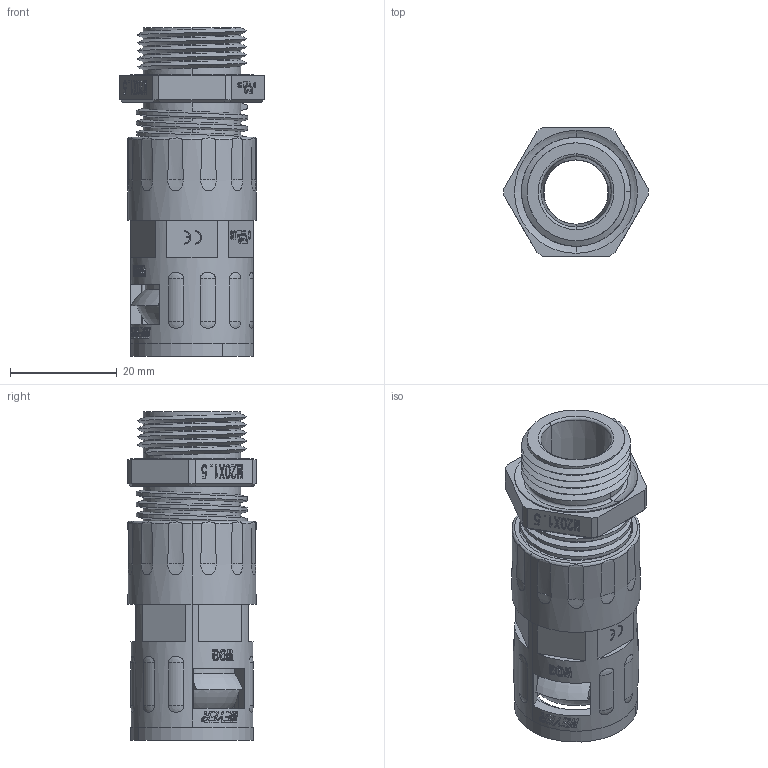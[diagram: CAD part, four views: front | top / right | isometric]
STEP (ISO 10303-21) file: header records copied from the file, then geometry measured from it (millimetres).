
FILE_DESCRIPTION (( 'STEP AP203' ), '1' );
FILE_NAME ('WQGZ-M20-AD15.8.STEP', '2019-09-24T05:37:54', ( '' ), ( '' ), 'SwSTEP 2.0', 'SolidWorks 2016', '' );
FILE_SCHEMA (( 'CONFIG_CONTROL_DESIGN' ));
Length unit declared in the file: millimetre
Products named in the file (8): WQG2-Tr20-AD15.8; CTH-P13.5; HSK-M20-01; WQGZ-M20-AD15.8; GFD-AD15.8; 蚾饜极; NSK-AD15.8
Assembly tree (7 placements, depth 3):
  WQGZ-M20-AD15.8
    WQG2-Tr20-AD15.8
      WQG2-Tr20-AD15.8
      GFD-AD15.8
      NSK-AD15.8
    蚾饜极
      HSK-M20-01
      CTH-P13.5
Bounding box: 27 x 24 x 61.5 mm (x, y, z)
Volume: 13175.7 mm3; surface area: 17028 mm2
Topology: 16 solids, 16 shells, 1023 faces, 2739 edges, 1783 vertices
Faces by surface type: plane 597, cylinder 138, bspline 133, cone 81, torus 46, sphere 28
Entity records: 46174 total; most frequent: CARTESIAN_POINT 21291, ORIENTED_EDGE 5366, DIRECTION 4433, EDGE_CURVE 2683, VERTEX_POINT 1755, AXIS2_PLACEMENT_3D 1518, VECTOR 1397, LINE 1397
